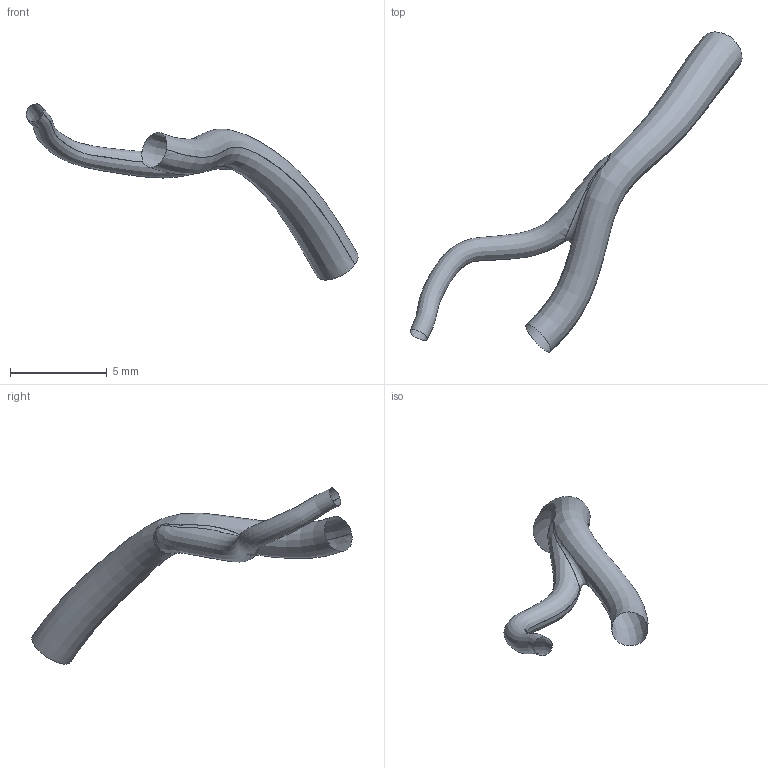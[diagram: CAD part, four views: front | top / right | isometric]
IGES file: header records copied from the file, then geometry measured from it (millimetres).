
Global section: file name: C:\Documents and Settings\Administrator\Desktop\FDA-Pig\Domestic RCA\Pig_000011\avc.es.igs; native system: Rhinoceros ( May 19 2006 ); preprocessor: Trout Lake IGES 012 May 19 2006; date: 111205.185642; units: centimetre
Bounding box: 17.17 x 16.56 x 9.11 mm (x, y, z)
Surface area: 174 mm2 (no closed solid volume)
Topology: 0 solids, 0 shells, 3 faces, 62 edges, 59 vertices
Faces by surface type: bspline 3
